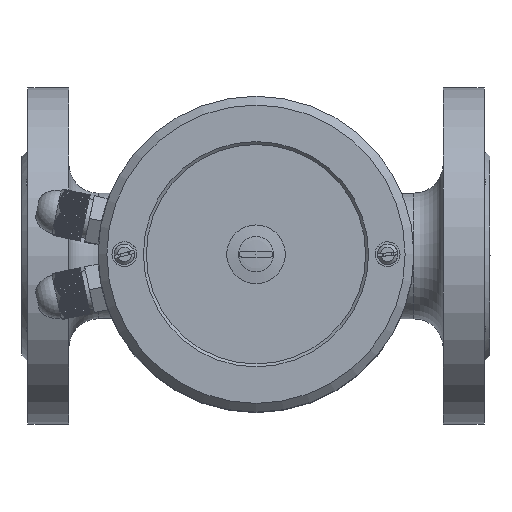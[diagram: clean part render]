
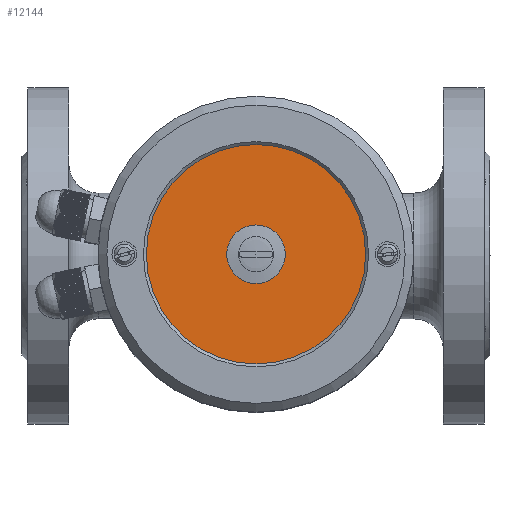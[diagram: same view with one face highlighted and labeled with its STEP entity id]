
A CAD part, top view. The second image highlights one B-rep face of the part: STEP entity #12144.
In plain terms, the highlighted planar face has unit normal (0, 0, 1).
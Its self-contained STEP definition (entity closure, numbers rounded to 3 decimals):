
#12144=ADVANCED_FACE('',(#29840,#29842),#29844,.T.);
#29840=FACE_BOUND('',#29841,.T.);
#29841=EDGE_LOOP('',(#43010));
#29842=FACE_BOUND('',#29843,.T.);
#29843=EDGE_LOOP('',(#43011));
#29844=PLANE('',#29845);
#29845=AXIS2_PLACEMENT_3D('',#29846,#29847,#29848);
#29846=CARTESIAN_POINT('',(0.,0.,352.262));
#29847=DIRECTION('',(0.,0.,1.));
#29848=DIRECTION('',(-1.,0.,0.));
#43010=ORIENTED_EDGE('',*,*,#50178,.T.);
#43011=ORIENTED_EDGE('',*,*,#50183,.F.);
#50178=EDGE_CURVE('',#57949,#57949,#57950,.T.);
#50183=EDGE_CURVE('',#57959,#57959,#57960,.T.);
#57949=VERTEX_POINT('',#98662);
#57950=CIRCLE('',#98663,37.5);
#57959=VERTEX_POINT('',#98687);
#57960=CIRCLE('',#98688,10.007);
#98662=CARTESIAN_POINT('',(-37.5,0.,352.262));
#98663=AXIS2_PLACEMENT_3D('',#98664,#98665,#98666);
#98664=CARTESIAN_POINT('',(0.,0.,352.262));
#98665=DIRECTION('',(0.,0.,1.));
#98666=DIRECTION('',(-1.,0.,0.));
#98687=CARTESIAN_POINT('',(-10.007,0.,352.262));
#98688=AXIS2_PLACEMENT_3D('',#98689,#98690,#98691);
#98689=CARTESIAN_POINT('',(0.,0.,352.262));
#98690=DIRECTION('',(0.,0.,1.));
#98691=DIRECTION('',(-1.,0.,0.));
